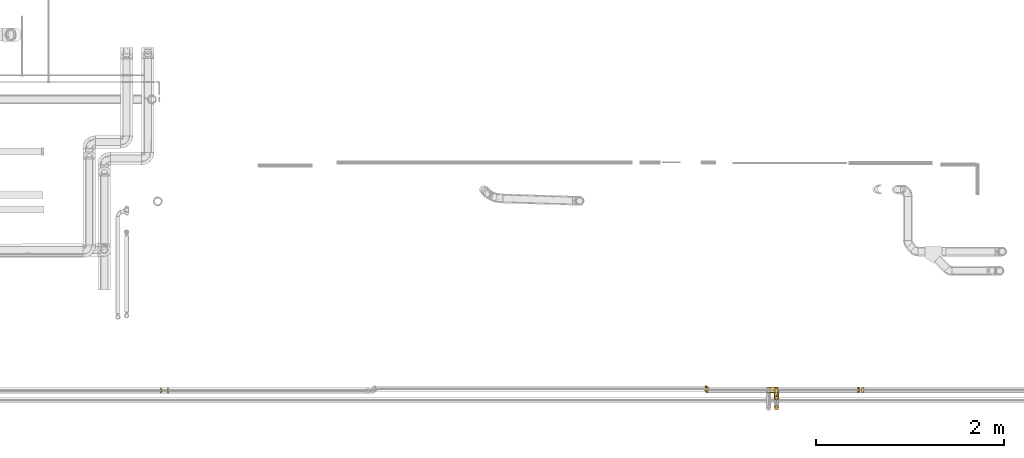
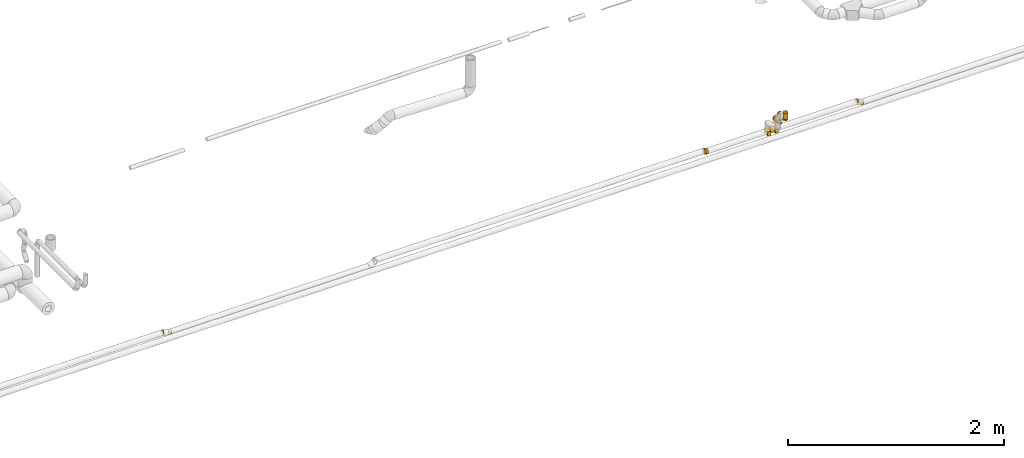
# One storey, part 11 of 156: 16 coverings.
"""IFC2X3 building model written with IfcOpenShell, lengths in millimetres."""

import ifcopenshell
import ifcopenshell.guid

model = None  # the IFC model being written
_history = None  # IfcOwnerHistory: only IFC2X3 demands one
_inside = {}  # id of a spatial element -> (the spatial element, [elements in it])
_under = {}  # id of a project, library or spatial element -> (it, [spatial elements below it])
_declared = {}  # id of a project -> (the project, [libraries it declares])
_typed = {}  # id of a type object -> (the type object, [elements of that type])
_made_of = {}  # id of a material, layer set ... -> (it, [elements and type objects made of it])


def new_model(schema):
    """Start an empty IFC model of exactly this schema.

    Asked for "IFC4X3", IfcOpenShell would pick the latest addendum, in which some entities
    have other attributes; the version numbers below select the first issue.
    IFC2X3 requires an IfcOwnerHistory on every rooted entity: one is made here for all.
    """
    global model, _history
    if schema == "IFC4X3":
        model = ifcopenshell.file(schema_version=(4, 3, 0, 0))
    else:
        model = ifcopenshell.file(schema=schema)
    _inside.clear()
    _under.clear()
    _declared.clear()
    _typed.clear()
    _made_of.clear()
    _history = None
    if model.schema == "IFC2X3":
        org = make("IfcOrganization", Name="unknown")
        user = make(
            "IfcPersonAndOrganization",
            ThePerson=make("IfcPerson", FamilyName="unknown"),
            TheOrganization=org,
        )
        app = make(
            "IfcApplication",
            ApplicationDeveloper=org,
            Version="unknown",
            ApplicationFullName="unknown",
            ApplicationIdentifier="unknown",
        )
        _history = make(
            "IfcOwnerHistory",
            OwningUser=user,
            OwningApplication=app,
            ChangeAction="ADDED",
            CreationDate=0,
        )
    return model


def make(cls, **values):
    """One entity of the class cls with the attributes given. An attribute that is None is left unset."""
    return model.create_entity(
        cls, **{name: value for name, value in values.items() if value is not None}
    )


def entity(cls, *values):
    """Any entity or typed value of the class cls, its attributes in the order of the schema. None: left unset."""
    e = model.create_entity(cls)
    for i, value in enumerate(values):
        if value is not None:
            e[i] = value
    return e


def rooted(cls, **values):
    """An entity with a GlobalId (a new one), such as an element, a storey or a relation."""
    return make(cls, GlobalId=ifcopenshell.guid.new(), OwnerHistory=_history, **values)


def si_unit(unit_type, name, prefix=None):
    """IfcSIUnit, for example si_unit("LENGTHUNIT", "METRE", prefix="MILLI")."""
    return make("IfcSIUnit", UnitType=unit_type, Prefix=prefix, Name=name)


def converted_unit(unit_type, name, factor, base, dimensions=None, offset=None):
    """IfcConversionBasedUnit, such as the inch: factor (a typed value) times the base unit."""
    return make(
        "IfcConversionBasedUnit"
        if offset is None
        else "IfcConversionBasedUnitWithOffset",
        ConversionOffset=offset,
        Dimensions=None
        if dimensions is None
        else entity("IfcDimensionalExponents", *dimensions),
        UnitType=unit_type,
        Name=name,
        ConversionFactor=make(
            "IfcMeasureWithUnit", ValueComponent=factor, UnitComponent=base
        ),
    )


def derived_unit(unit_type, elements):
    """IfcDerivedUnit: a product of units, each with its exponent."""
    return make(
        "IfcDerivedUnit",
        Elements=[
            make("IfcDerivedUnitElement", Unit=unit, Exponent=power)
            for unit, power in elements
        ],
        UnitType=unit_type,
    )


def assignment(units):
    """IfcUnitAssignment: the units of a project."""
    return None if units is None else make("IfcUnitAssignment", Units=units)


def point(xyz):
    """IfcCartesianPoint."""
    return None if xyz is None else make("IfcCartesianPoint", Coordinates=xyz)


def direction(xyz):
    """IfcDirection."""
    return None if xyz is None else make("IfcDirection", DirectionRatios=xyz)


def frame(location, z_axis=None, x_axis=None):
    """IfcAxis2Placement3D, a coordinate frame: its origin and axes. An axis left out is left unset."""
    return make(
        "IfcAxis2Placement3D",
        Location=point(location),
        Axis=direction(z_axis),
        RefDirection=direction(x_axis),
    )


def frame_2d(location, x_axis=None):
    """IfcAxis2Placement2D, a coordinate frame in the plane: its origin and x axis."""
    return make(
        "IfcAxis2Placement2D", Location=point(location), RefDirection=direction(x_axis)
    )


def origin_with_axes():
    """The frame at (0, 0, 0) with the z axis (0, 0, 1) and the x axis (1, 0, 0) written out."""
    return frame((0.0, 0.0, 0.0), z_axis=(0.0, 0.0, 1.0), x_axis=(1.0, 0.0, 0.0))


def origin_2d_with_axis():
    """The frame at (0, 0) in the plane with the x axis (1, 0) written out."""
    return frame_2d((0.0, 0.0), x_axis=(1.0, 0.0))


def place(relative_to, where):
    """IfcLocalPlacement: puts the frame where relative to a parent placement (None: the world)."""
    return make(
        "IfcLocalPlacement", PlacementRelTo=relative_to, RelativePlacement=where
    )


def context(
    kind, dimensions, precision=None, world=None, true_north=None, identifier=None
):
    """IfcGeometricRepresentationContext, for example the 3D "Model" context."""
    return make(
        "IfcGeometricRepresentationContext",
        ContextIdentifier=identifier,
        ContextType=kind,
        CoordinateSpaceDimension=dimensions,
        Precision=precision,
        WorldCoordinateSystem=world,
        TrueNorth=true_north,
    )


def subcontext(parent, identifier, kind, view, scale=None):
    """IfcGeometricRepresentationSubContext, for example "Body" below "Model"."""
    return make(
        "IfcGeometricRepresentationSubContext",
        ContextIdentifier=identifier,
        ContextType=kind,
        ParentContext=parent,
        TargetScale=scale,
        TargetView=view,
    )


def project(units=None, contexts=None):
    """IfcProject with its units and contexts."""
    return rooted(
        "IfcProject",
        Name="project",
        RepresentationContexts=contexts,
        UnitsInContext=assignment(units),
    )


def spatial(cls, under=None, at=None, **own):
    """A site, building, storey or space (cls), placed at a placement, below another one or the project."""
    s = rooted(cls, ObjectPlacement=at, **own)
    if under is not None:
        _under.setdefault(under.id(), (under, []))[1].append(s)
    return s


def profile(cls, at=None, kind="AREA", **sizes):
    """A parametric profile (cls). Its sizes go by their IFC names, for example OverallWidth=200.0."""
    return make(cls, ProfileType=kind, Position=at, **sizes)


def hollow_circle(**sizes):
    """IfcCircleHollowProfileDef."""
    return profile("IfcCircleHollowProfileDef", **sizes)


def extrude(swept, where, along, depth):
    """IfcExtrudedAreaSolid: the profile swept, set in the frame where, extruded along a direction by depth."""
    return make(
        "IfcExtrudedAreaSolid",
        SweptArea=swept,
        Position=where,
        ExtrudedDirection=direction(along),
        Depth=depth,
    )


def faces_of(points, faces, orient=None, outer=None):
    """IfcFace entities. A face is a list of loops; a loop is a list of indices into points, from 0.

    orient and outer hold one flag for each loop. By default every Orientation is true, the
    first loop of a face is its IfcFaceOuterBound and the others are IfcFaceBound.
    """
    made = []
    for i, loops in enumerate(faces):
        bounds = []
        for j, loop in enumerate(loops):
            is_outer = j == 0 if outer is None else outer[i][j]
            bounds.append(
                make(
                    "IfcFaceOuterBound" if is_outer else "IfcFaceBound",
                    Bound=make("IfcPolyLoop", Polygon=[points[k] for k in loop]),
                    Orientation=True if orient is None else orient[i][j],
                )
            )
        made.append(make("IfcFace", Bounds=bounds))
    return made


def open_shell(faces, orient=None, outer=None):
    """The faces of one IfcOpenShell. surface_model builds it on its shared points."""
    return ("IfcOpenShell", faces, orient, outer)


def surface_model(cls, points, shells):
    """IfcFaceBasedSurfaceModel or IfcShellBasedSurfaceModel (cls): surfaces that need not close."""
    shared = [point(p) for p in points]
    made = [make(c, CfsFaces=faces_of(shared, fs, o, b)) for c, fs, o, b in shells]
    if cls == "IfcFaceBasedSurfaceModel":
        return make(cls, FbsmFaces=made)
    return make(cls, SbsmBoundary=made)


def shape(context_of_items, identifier, shape_type, items):
    """IfcShapeRepresentation: the items that make up one representation, for example the "Body"."""
    return make(
        "IfcShapeRepresentation",
        ContextOfItems=context_of_items,
        RepresentationIdentifier=identifier,
        RepresentationType=shape_type,
        Items=items,
    )


def source(mapping_origin, context_of_items, identifier, shape_type, items):
    """IfcRepresentationMap: a shape defined once, which mapped items show again and again."""
    return make(
        "IfcRepresentationMap",
        MappingOrigin=mapping_origin,
        MappedRepresentation=shape(context_of_items, identifier, shape_type, items),
    )


def transform(
    local_origin,
    x_axis=None,
    y_axis=None,
    z_axis=None,
    scale=None,
    scale2=None,
    scale3=None,
    uniform=True,
):
    """IfcCartesianTransformationOperator3D, or its non-uniform kind. x_axis, y_axis, z_axis: its Axis1, 2, 3."""
    if uniform:
        return make(
            "IfcCartesianTransformationOperator3D",
            Axis1=direction(x_axis),
            Axis2=direction(y_axis),
            LocalOrigin=point(local_origin),
            Scale=scale,
            Axis3=direction(z_axis),
        )
    return make(
        "IfcCartesianTransformationOperator3DnonUniform",
        Axis1=direction(x_axis),
        Axis2=direction(y_axis),
        LocalOrigin=point(local_origin),
        Scale=scale,
        Axis3=direction(z_axis),
        Scale2=scale2,
        Scale3=scale3,
    )


def mapped(mapping_source, mapping_target):
    """IfcMappedItem: shows the shape of a source again, moved by a transform."""
    return make(
        "IfcMappedItem", MappingSource=mapping_source, MappingTarget=mapping_target
    )


def made_of(thing, what):
    """Note that an element or type object is made of a material, layer set ...; save() writes the relation."""
    if what is not None:
        _made_of.setdefault(what.id(), (what, []))[1].append(thing)
    return thing


def element(
    cls,
    number,
    at=None,
    inside=None,
    cuts=None,
    type_object=None,
    material=None,
    context=None,
    identifier="Body",
    shape_type=None,
    held_by="IfcProductDefinitionShape",
    body=None,
    shapes=None,
    **own,
):
    """One element of the class cls, such as IfcWall. Its Tag is "e" and its number.

    at: its placement. inside: the storey or other place that contains it. cuts: it is an
    opening in that element (IfcRelVoidsElement). A single representation is given by context,
    identifier, shape_type and body (its items); several are given by shapes. held_by: the class
    of the entity that holds the representations. save() writes the other relations.
    """
    e = rooted(cls, Tag="e%d" % number, ObjectPlacement=at, **own)
    if body is not None:
        shapes = [shape(context, identifier, shape_type, body)]
    if shapes is not None:
        e.Representation = make(held_by, Representations=shapes)
    if inside is not None:
        _inside.setdefault(inside.id(), (inside, []))[1].append(e)
    if cuts is not None:
        rooted(
            "IfcRelVoidsElement", RelatingBuildingElement=cuts, RelatedOpeningElement=e
        )
    if type_object is not None:
        _typed.setdefault(type_object.id(), (type_object, []))[1].append(e)
    return made_of(e, material)


def aggregate(whole, parts):
    """IfcRelAggregates: a whole, such as a stair, and the parts it consists of."""
    return rooted("IfcRelAggregates", RelatingObject=whole, RelatedObjects=parts)


def save(model, path):
    """Write the relations noted so far, then the file.

    IfcRelAggregates (storeys below a building ...), IfcRelContainedInSpatialStructure (elements
    in a storey), IfcRelDefinesByType, IfcRelAssociatesMaterial and IfcRelDeclares: one each for
    every whole, place, type object, material and project.
    """
    for whole, parts in _under.values():
        aggregate(whole, parts)
    for where, things in _inside.values():
        rooted(
            "IfcRelContainedInSpatialStructure",
            RelatedElements=things,
            RelatingStructure=where,
        )
    for kind, things in _typed.values():
        rooted("IfcRelDefinesByType", RelatedObjects=things, RelatingType=kind)
    for what, things in _made_of.values():
        rooted("IfcRelAssociatesMaterial", RelatedObjects=things, RelatingMaterial=what)
    for by, libraries in _declared.values():
        rooted("IfcRelDeclares", RelatingContext=by, RelatedDefinitions=libraries)
    model.write(path)


model = new_model("IFC2X3")

# Units and contexts
model_context = context("Model", 3, precision=0.01, world=frame((0.0, 4.29681676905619e-09, 0.0)), true_north=direction((4.01073788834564e-13, 1.0)))
plan_context = context("Plan", 3, precision=0.01, world=frame((0.0, 4.29681676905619e-09, 0.0)), true_north=direction((4.01073788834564e-13, 1.0)))
body_context = subcontext(model_context, "Body", "Model", "MODEL_VIEW")
ifc_project = project(units=[converted_unit("PLANEANGLEUNIT", "DEGREE", entity("IfcPositiveLengthMeasure", 0.0174532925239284), si_unit("PLANEANGLEUNIT", "RADIAN"), dimensions=[0, 0, 0, 0, 0, 0, 0]), si_unit("AREAUNIT", "SQUARE_METRE"), si_unit("LENGTHUNIT", "METRE", prefix="MILLI"), si_unit("MASSUNIT", "GRAM", prefix="KILO"), si_unit("POWERUNIT", "WATT"), si_unit("PRESSUREUNIT", "PASCAL", prefix="KILO"), si_unit("FORCEUNIT", "NEWTON", prefix="KILO"), si_unit("ELECTRICVOLTAGEUNIT", "VOLT"), si_unit("ELECTRICCURRENTUNIT", "AMPERE"), si_unit("THERMODYNAMICTEMPERATUREUNIT", "DEGREE_CELSIUS"), si_unit("TIMEUNIT", "SECOND"), si_unit("VOLUMEUNIT", "CUBIC_METRE"), derived_unit("LINEARVELOCITYUNIT", [(si_unit("LENGTHUNIT", "METRE"), 1), (si_unit("TIMEUNIT", "SECOND"), -1)]), derived_unit("VOLUMETRICFLOWRATEUNIT", [(si_unit("VOLUMEUNIT", "CUBIC_METRE"), 1), (si_unit("TIMEUNIT", "SECOND"), -1)]), derived_unit("THERMALTRANSMITTANCEUNIT", [(si_unit("POWERUNIT", "WATT"), 1), (si_unit("THERMODYNAMICTEMPERATUREUNIT", "KELVIN"), -1), (si_unit("AREAUNIT", "SQUARE_METRE"), -1)]), derived_unit("SOUNDPRESSUREUNIT", [(si_unit("PRESSUREUNIT", "PASCAL"), 1)])], contexts=[model_context, plan_context])

# Site, building, storey
site_placement = place(None, frame((0.0, -4.29681676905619e-09, 0.0), z_axis=(0.0, 0.0, 1.0), x_axis=(1.0, 0.0, 0.0)))
site = spatial("IfcSite", under=ifc_project, at=site_placement, CompositionType="ELEMENT")
building_placement = place(site_placement, frame((0.0, 4.29681676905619e-09, 0.0), z_axis=(0.0, 0.0, 1.0), x_axis=(1.0, 0.0, 0.0)))
building = spatial("IfcBuilding", under=site, at=building_placement, Name="mc-building", CompositionType="ELEMENT")
storey_placement = place(building_placement, frame((0.0, 0.0, 205200.0), z_axis=(0.0, 0.0, 1.0), x_axis=(1.0, 0.0, 0.0)))
storey = spatial("IfcBuildingStorey", under=building, at=storey_placement, Name="Nivå D + 1,2 m", CompositionType="ELEMENT", Elevation=205200.0)

# Coverings
shared_shape_1 = source(origin_with_axes(), body_context, "Body", "SurfaceModel", [
    surface_model("IfcShellBasedSurfaceModel", [(-1.23106, 9.71666, 28.38286), (-1.23106, 9.71666, -28.38286), (-1.23106, 4.92516, -29.59295), (-1.23106, 0.0, -30.0), (-1.23106, -7.76457, -28.97778), (-1.23106, 4.92516, 29.59295), (-1.23106, -7.76457, 28.97778), (-1.23106, 0.0, 30.0), (-1.23106, -15.0, -25.98076), (-1.23106, -21.2132, -21.2132), (-1.23106, -25.98076, -15.0), (-1.23106, -25.98076, 15.0), (-1.23106, -28.97778, -7.76457), (-1.23106, -21.2132, 21.2132), (-1.23106, -15.0, 25.98076), (-1.23106, -28.97778, 7.76457), (-1.23106, -30.0, 0.0), (-0.00023, 5.07668, -29.59295), (-1.16439, 9.73333, -28.38286), (-1.16234, 9.72512, 28.38286), (3.07749, -7.23417, -28.97778), (1.1943, 0.29857, -30.0), (3.07749, -7.23417, 28.97778), (-0.00023, 5.07668, 29.59295), (1.1943, 0.29857, 30.0), (4.83233, -14.25356, -25.98076), (7.49556, -24.90647, -15.0), (6.33926, -20.28125, -21.2132), (7.49556, -24.90647, 15.0), (8.22244, -27.814, -7.76457), (4.83233, -14.25356, 25.98076), (6.33926, -20.28125, 21.2132), (8.22244, -27.814, 7.76457), (8.47037, -28.8057, 0.0), (-0.00922, 0.07492, -30.0), (-1.16234, 9.72512, -28.38286), (3.65627, -29.7003, 0.0), (-0.00922, 0.07492, 30.0), (-0.68843, 7.67105, 28.91635), (-1.23106, 6.72926, 29.13732), (0.44954, 3.27762, 29.74622), (-1.23106, 3.07073, 29.74622)], [open_shell([[[0, 1, 2]], [[3, 4, 2]], [[0, 2, 4]], [[5, 0, 6]], [[6, 7, 5]], [[0, 4, 6]], [[4, 8, 6]], [[8, 9, 10]], [[8, 10, 11]], [[11, 10, 12]], [[6, 13, 14]], [[8, 11, 13]], [[15, 11, 12]], [[12, 16, 15]], [[13, 6, 8]], [[17, 18, 19]], [[17, 20, 21]], [[20, 17, 19]], [[22, 19, 23]], [[23, 24, 22]], [[22, 20, 19]], [[22, 25, 20]], [[26, 27, 25]], [[28, 26, 25]], [[29, 26, 28]], [[30, 31, 22]], [[31, 28, 25]], [[29, 28, 32]], [[32, 33, 29]], [[25, 22, 31]], [[3, 2, 34]], [[34, 2, 17]], [[17, 21, 34]], [[17, 2, 35]], [[4, 3, 34]], [[9, 8, 25]], [[4, 25, 8]], [[12, 10, 26]], [[10, 9, 26]], [[16, 12, 36]], [[20, 4, 34]], [[25, 27, 9]], [[20, 25, 4]], [[26, 9, 27]], [[12, 29, 36]], [[12, 26, 29]], [[29, 33, 36]], [[20, 34, 21]], [[11, 28, 13]], [[13, 30, 14]], [[28, 11, 15]], [[7, 6, 37]], [[6, 22, 37]], [[14, 30, 6]], [[15, 16, 36]], [[28, 31, 13]], [[15, 32, 28]], [[33, 32, 36]], [[6, 30, 22]], [[37, 22, 24]], [[13, 31, 30]], [[15, 36, 32]], [[38, 39, 5]], [[37, 40, 41]], [[23, 5, 40]], [[40, 5, 41]], [[37, 24, 40]], [[38, 0, 39]], [[41, 7, 37]], [[5, 23, 38]]])]),
])
for number, where, z_axis, x_axis in (
    (1, (330457.5, 459031.28638, 4218.32044000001), (0.0, 1.0, 0.0), (1.0, 0.0, 0.0)),
    (2, (330537.5, 459031.28638, 4198.32044000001), (0.0, 1.0, 0.0), (-1.0, 0.0, 0.0)),
):
    element("IfcCovering", number, at=place(storey_placement, frame(where, z_axis=z_axis, x_axis=x_axis)), inside=storey, Name="BI10T - Cellegummi 18-32 mm kalde rør", PredefinedType="INSULATION", context=body_context, shape_type="MappedRepresentation", body=[
        mapped(shared_shape_1, transform((0.0, 0.0, 0.0), scale=1.0)),
    ])
shared_shape_2 = source(origin_with_axes(), body_context, "Body", "SweptSolid", [
    extrude(hollow_circle(Radius=30.0, WallThickness=25.0, at=origin_2d_with_axis()), frame((0.0, 0.0, 0.0), z_axis=(1.0, 0.0, 0.0), x_axis=(0.0, 1.0, 0.0)), (0.0, 0.0, 1.0), 18.3),
])
covering_1_placement = place(storey_placement, frame((336274.83333, 459038.28638, 4228.32044000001), z_axis=(0.0, 0.0, 1.0), x_axis=(-0.8, 0.6, 0.0)))
element("IfcCovering", 3, at=covering_1_placement, inside=storey, Name="BI10T - Cellegummi 18-32 mm kalde rør", PredefinedType="INSULATION", context=body_context, shape_type="MappedRepresentation", body=[
    mapped(shared_shape_2, transform((0.0, 0.0, 0.0), scale=1.0)),
])
shared_shape_3 = source(origin_with_axes(), body_context, "Body", "SurfaceModel", [
    surface_model("IfcShellBasedSurfaceModel", [(-3.16333, 9.77333, 28.38286), (-0.28511, 5.9357, 29.59387), (2.66667, 2.0, 30.0), (6.67404, -3.34317, 29.24708), (-3.16333, 9.77333, -28.38286), (-0.29175, 5.94455, -29.59203), (2.66667, 2.0, -30.0), (6.66976, -3.33745, -29.24871), (10.47397, -8.40974, -27.03116), (13.88686, -12.96026, -23.45843), (18.88536, -19.62492, 13.01217), (10.47941, -8.417, 27.02679), (13.89223, -12.96742, 23.45129), (16.74172, -16.76674, 18.70033), (18.88274, -19.62143, -13.02124), (20.66667, -22.0, 0.0), (20.21589, -21.39897, 6.67182), (16.73744, -16.76104, -18.70927), (20.21491, -21.39766, -6.67896), (-3.33333, 9.71666, -28.38286), (-3.33333, 4.92516, -29.59295), (-3.33333, 0.0, -30.0), (-3.33333, -7.76457, -28.97778), (-3.33333, -7.76457, 28.97778), (-3.33333, 4.92516, 29.59295), (-3.33333, 9.71666, 28.38286), (-3.33333, 0.0, 30.0), (-3.33333, -15.0, -25.98076), (-3.33333, -21.2132, -21.2132), (-3.33333, -25.98076, -15.0), (-3.33333, -25.98076, 15.0), (-3.33333, -28.97778, -7.76457), (-3.33333, -21.2132, 21.2132), (-3.33333, -15.0, 25.98076), (-3.33333, -28.97778, 7.76457), (-3.33333, -30.0, 0.0), (-3.24373, 9.7312, 28.38286), (-3.24373, 9.7312, -28.38286), (0.82425, 4.45656, -29.74593), (-3.33333, 6.72926, -29.13732), (-0.17106, 0.51317, -30.0), (3.83572, -23.98999, -16.97178), (3.06373, -8.84826, -28.31794), (2.8145, -15.24095, -25.39047), (6.82498, -19.50966, -21.21725), (11.29944, -22.24956, -15.94139), (9.31578, -27.94733, 0.0), (8.97988, -26.28263, -9.91246), (8.11463, -13.29564, -25.40449), (3.06588, -8.8562, 28.31507), (2.233, -16.39115, 24.7378), (7.38543, -13.62337, 25.41401), (8.98174, -26.28503, 9.90425), (5.04173, -24.38522, 15.97887), (6.82761, -19.51731, 21.20916), (12.28157, -21.77504, 15.95656), (-0.17106, 0.51317, 30.0), (-1.37085, 7.38336, 29.13704), (-3.33333, 3.07073, 29.74622)], [open_shell([[[0, 1, 2]], [[2, 3, 0]], [[0, 3, 4]], [[5, 4, 6]], [[4, 7, 6]], [[7, 4, 8]], [[8, 4, 9]], [[4, 3, 10]], [[11, 12, 13]], [[14, 4, 10]], [[10, 11, 13]], [[15, 10, 16]], [[17, 9, 14]], [[14, 15, 18]], [[9, 4, 14]], [[10, 15, 14]], [[10, 3, 11]], [[19, 20, 21]], [[21, 22, 19]], [[19, 22, 23]], [[24, 25, 26]], [[26, 25, 19]], [[19, 23, 26]], [[22, 27, 23]], [[27, 28, 29]], [[27, 29, 30]], [[30, 29, 31]], [[23, 32, 33]], [[27, 30, 32]], [[34, 30, 31]], [[31, 35, 34]], [[32, 23, 27]], [[19, 25, 36]], [[37, 19, 36]], [[0, 4, 36]], [[37, 36, 4]], [[5, 37, 4]], [[38, 20, 5]], [[5, 39, 37]], [[40, 21, 20]], [[20, 38, 40]], [[38, 6, 40]], [[19, 37, 39]], [[20, 39, 5]], [[28, 41, 29]], [[27, 42, 43]], [[40, 42, 22]], [[44, 45, 41]], [[42, 27, 22]], [[28, 27, 43]], [[35, 31, 46]], [[17, 45, 44]], [[47, 46, 31]], [[44, 41, 28]], [[29, 47, 31]], [[48, 42, 8]], [[22, 21, 40]], [[42, 48, 43]], [[48, 8, 9]], [[42, 7, 8]], [[28, 43, 44]], [[6, 7, 40]], [[44, 48, 9]], [[41, 47, 29]], [[44, 43, 48]], [[17, 44, 9]], [[15, 46, 18]], [[46, 47, 18]], [[47, 41, 45]], [[14, 18, 47]], [[17, 14, 45]], [[14, 47, 45]], [[7, 42, 40]], [[49, 50, 51]], [[34, 35, 46]], [[52, 53, 30]], [[52, 30, 34]], [[32, 53, 54]], [[12, 11, 51]], [[50, 32, 54]], [[54, 55, 13]], [[50, 54, 51]], [[56, 49, 3]], [[50, 49, 33]], [[23, 56, 26]], [[52, 46, 16]], [[54, 53, 55]], [[55, 10, 13]], [[12, 51, 54]], [[16, 10, 52]], [[12, 54, 13]], [[33, 49, 23]], [[11, 3, 49]], [[11, 49, 51]], [[3, 2, 56]], [[32, 30, 53]], [[55, 52, 10]], [[23, 49, 56]], [[46, 52, 34]], [[32, 50, 33]], [[16, 46, 15]], [[52, 55, 53]], [[1, 56, 2]], [[57, 24, 1]], [[1, 58, 56]], [[36, 25, 24]], [[24, 57, 36]], [[57, 0, 36]], [[26, 56, 58]], [[24, 58, 1]]])]),
])
for number, where, z_axis, x_axis in (
    (4, (336277.5, 459036.28638, 4228.32044000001), (0.0, 0.0, 1.0), (0.8, -0.6, 0.0)),
    (5, (336257.5, 459051.28638, 4228.32044000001), (0.0, 0.0, 1.0), (-0.8, 0.6, 0.0)),
):
    element("IfcCovering", number, at=place(storey_placement, frame(where, z_axis=z_axis, x_axis=x_axis)), inside=storey, Name="BI10T - Cellegummi 18-32 mm kalde rør", PredefinedType="INSULATION", context=body_context, shape_type="MappedRepresentation", body=[
        mapped(shared_shape_3, transform((0.0, 0.0, 0.0), scale=1.0)),
    ])
shared_shape_4 = source(origin_with_axes(), body_context, "Body", "SurfaceModel", [
    surface_model("IfcShellBasedSurfaceModel", [(-2.16609, 9.71666, -28.38286), (-2.16609, 4.92516, -29.59295), (-2.16609, 0.0, -30.0), (-2.16609, -7.76457, -28.97778), (-2.16609, 9.71666, 28.38286), (-2.16609, 4.92516, 29.59295), (-2.16609, 0.0, 30.0), (-2.16609, -7.76457, 28.97778), (-2.16609, -15.0, -25.98076), (-2.16609, -21.2132, -21.2132), (-2.16609, -25.98076, -15.0), (-2.16609, -25.98076, 15.0), (-2.16609, -28.97778, -7.76457), (-2.16609, -21.2132, 21.2132), (-2.16609, -15.0, 25.98076), (-2.16609, -28.97778, 7.76457), (-2.16609, -30.0, 0.0), (-0.06611, 5.38003, -29.59295), (-2.05936, 9.76518, -28.38286), (-2.04885, 9.74206, 28.38286), (1.97194, 0.89634, -30.0), (5.18494, -6.17227, -28.97778), (1.97194, 0.89634, 30.0), (-0.06611, 5.38003, 29.59295), (5.18494, -6.17227, 28.97778), (8.17898, -12.75916, -25.98076), (12.72285, -22.75568, -15.0), (10.75002, -18.41545, -21.2132), (12.72285, -22.75568, 15.0), (13.96303, -25.48406, -7.76457), (8.17898, -12.75916, 25.98076), (10.75002, -18.41545, 21.2132), (13.96303, -25.48406, 7.76457), (14.38603, -26.41466, 0.0), (-0.04909, 0.22665, -30.0), (-2.10054, 7.61845, -28.91635), (-2.04885, 9.74206, -28.38286), (-0.81265, 7.02243, -29.13732), (-0.43938, 6.20123, -29.36514), (0.78086, -5.57639, -29.42356), (3.81714, -17.62226, -23.8006), (2.38132, -10.99364, -27.71639), (4.98949, -23.0345, -18.26284), (7.19137, -28.29693, -5.85271), (5.81846, -26.86153, -11.4805), (6.3019, -29.09339, 0.0), (2.38132, -10.99364, 27.71639), (3.81714, -17.62226, 23.8006), (5.16258, -28.73639, 5.85271), (4.98949, -23.0345, 18.26284), (5.81846, -26.86153, 11.4805), (1.59666, -5.39968, 29.42356), (-0.04909, 0.22665, 30.0), (-1.24028, 7.80479, 28.91635), (-2.16609, 6.72926, 29.13732), (0.70126, 3.69182, 29.74622), (-2.16609, 3.07073, 29.74622)], [open_shell([[[0, 1, 2]], [[2, 3, 0]], [[0, 3, 4]], [[5, 4, 6]], [[7, 6, 4]], [[4, 3, 7]], [[3, 8, 7]], [[8, 9, 10]], [[8, 10, 11]], [[11, 10, 12]], [[7, 13, 14]], [[8, 11, 13]], [[15, 11, 12]], [[12, 16, 15]], [[13, 7, 8]], [[17, 18, 19]], [[19, 20, 17]], [[20, 19, 21]], [[22, 19, 23]], [[19, 22, 24]], [[24, 21, 19]], [[24, 25, 21]], [[26, 27, 25]], [[28, 26, 25]], [[29, 26, 28]], [[30, 31, 24]], [[31, 28, 25]], [[29, 28, 32]], [[32, 33, 29]], [[25, 24, 31]], [[2, 1, 34]], [[34, 1, 17]], [[35, 36, 37]], [[17, 20, 34]], [[35, 37, 38]], [[17, 1, 35]], [[38, 17, 35]], [[2, 39, 3]], [[8, 40, 9]], [[41, 40, 8]], [[9, 42, 10]], [[8, 3, 41]], [[39, 41, 3]], [[12, 43, 16]], [[26, 29, 44]], [[43, 12, 44]], [[44, 10, 42]], [[42, 9, 40]], [[39, 34, 20]], [[2, 34, 39]], [[42, 40, 27]], [[25, 40, 41]], [[33, 43, 29]], [[21, 39, 20]], [[43, 45, 16]], [[21, 25, 41]], [[10, 44, 12]], [[27, 40, 25]], [[43, 33, 45]], [[43, 44, 29]], [[44, 42, 26]], [[27, 26, 42]], [[21, 41, 39]], [[46, 47, 30]], [[16, 45, 48]], [[13, 11, 49]], [[50, 11, 15]], [[22, 51, 24]], [[32, 28, 50]], [[47, 46, 14]], [[51, 52, 6]], [[14, 13, 47]], [[31, 49, 28]], [[51, 46, 24]], [[7, 51, 6]], [[48, 32, 50]], [[50, 49, 11]], [[47, 49, 31]], [[47, 13, 49]], [[49, 50, 28]], [[47, 31, 30]], [[48, 50, 15]], [[51, 7, 46]], [[14, 46, 7]], [[22, 52, 51]], [[48, 45, 33]], [[30, 24, 46]], [[16, 48, 15]], [[48, 33, 32]], [[53, 54, 5]], [[52, 55, 56]], [[55, 23, 56]], [[56, 23, 5]], [[52, 22, 55]], [[53, 4, 54]], [[56, 6, 52]], [[5, 23, 53]]])]),
])
for number, where, z_axis, x_axis in (
    (6, (337932.5, 459036.28638, 4203.32044000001), (0.0, 1.0, 0.0), (-1.0, 0.0, 0.0)),
    (7, (337877.5, 459036.28638, 4228.32044000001), (0.0, 1.0, 0.0), (1.0, 0.0, 0.0)),
):
    element("IfcCovering", number, at=place(storey_placement, frame(where, z_axis=z_axis, x_axis=x_axis)), inside=storey, Name="BI10T - Cellegummi 18-32 mm kalde rør", PredefinedType="INSULATION", context=body_context, shape_type="MappedRepresentation", body=[
        mapped(shared_shape_4, transform((0.0, 0.0, 0.0), scale=1.0)),
    ])
shared_shape_5 = source(origin_with_axes(), body_context, "Body", "SurfaceModel", [
    surface_model("IfcShellBasedSurfaceModel", [(-17.2, -12.9, 33.6), (-17.2, -12.9, -33.6), (17.2, -12.9, 33.6), (17.2, -12.9, -33.6), (17.2, 33.6, 33.6), (17.2, 33.6, -33.6), (-17.2, 33.6, 33.6), (-17.2, 33.6, -33.6)], [open_shell([[[0, 1, 2]], [[3, 2, 1]], [[4, 5, 6]], [[7, 6, 5]], [[3, 1, 7]], [[7, 5, 3]], [[2, 3, 5]], [[5, 4, 2]], [[0, 2, 4]], [[4, 6, 0]], [[1, 0, 6]], [[6, 7, 1]]])]),
])
for number, where, z_axis, x_axis in (
    (8, (336925.62218, 459036.28638, 4228.32044000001), (0.0, -1.0, 0.0), (-1.0, 0.0, 0.0)),
    (9, (337009.60356, 459036.28638, 4228.32044000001), (0.0, -1.0, 0.0), (-1.0, 0.0, 0.0)),
):
    element("IfcCovering", number, at=place(storey_placement, frame(where, z_axis=z_axis, x_axis=x_axis)), inside=storey, Name="BI10T - Cellegummi 18-32 mm kalde rør", PredefinedType="INSULATION", context=body_context, shape_type="MappedRepresentation", body=[
        mapped(shared_shape_5, transform((0.0, 0.0, 0.0), scale=1.0)),
    ])
shared_shape_6 = source(origin_with_axes(), body_context, "Body", "SweptSolid", [
    extrude(hollow_circle(Radius=30.0, WallThickness=25.0, at=origin_2d_with_axis()), frame((0.0, 0.0, 0.0), z_axis=(1.0, 0.0, 0.0), x_axis=(0.0, 1.0, 0.0)), (0.0, 0.0, 1.0), 49.6),
])
covering_2_placement = place(storey_placement, frame((336942.82218, 459036.28638, 4228.32044000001), z_axis=(0.0, 0.0, 1.0), x_axis=(1.0, 0.0, 0.0)))
element("IfcCovering", 10, at=covering_2_placement, inside=storey, Name="BI10T - Cellegummi 18-32 mm kalde rør", PredefinedType="INSULATION", context=body_context, shape_type="MappedRepresentation", body=[
    mapped(shared_shape_6, transform((0.0, 0.0, 0.0), scale=1.0)),
])
shared_shape_7 = source(origin_with_axes(), body_context, "Body", "SweptSolid", [
    extrude(hollow_circle(Radius=25.0, WallThickness=20.0, at=origin_2d_with_axis()), frame((0.0, 0.0, 0.0), z_axis=(1.0, 0.0, 0.0), x_axis=(0.0, 1.0, 0.0)), (0.0, 0.0, 1.0), 65.0),
])
covering_3_placement = place(storey_placement, frame((337009.60356, 459026.28638, 4351.22044), z_axis=(0.0, 0.0, 1.0), x_axis=(0.0, -1.0, 0.0)))
element("IfcCovering", 11, at=covering_3_placement, inside=storey, Name="BI10T - Cellegummi 18-32 mm kalde rør", PredefinedType="INSULATION", context=body_context, shape_type="MappedRepresentation", body=[
    mapped(shared_shape_7, transform((0.0, 0.0, 0.0), scale=1.0)),
])
shared_shape_8 = source(origin_with_axes(), body_context, "Body", "SurfaceModel", [
    surface_model("IfcShellBasedSurfaceModel", [(15.59106, 10.0, 19.54275), (19.54869, 10.0, 15.5836), (22.52596, 10.0, 10.84348), (24.37392, 10.0, 5.55985), (-9.77037, 10.0, -23.01173), (0.0, 10.0, 25.0), (-4.97942, 10.0, 24.49909), (-9.77037, 10.0, 23.01173), (10.85104, 10.0, 22.52232), (5.5658, 10.0, 24.37256), (22.52232, 10.0, -10.85104), (25.0, 10.0, 0.0), (24.37256, 10.0, -5.5658), (19.54275, 10.0, -15.59106), (15.5836, 10.0, -19.54869), (5.55985, 10.0, -24.37392), (10.84348, 10.0, -22.52596), (0.0, 10.0, -25.0), (-4.9912, 10.0, -24.49669), (-10.0, 9.77037, -23.01173), (-10.0, 4.98531, -24.49789), (-10.0, -6.47048, -24.14815), (-10.0, 0.0, -25.0), (-10.0, 4.98531, 24.49789), (-10.0, 9.77037, 23.01173), (-10.0, -6.47048, 24.14815), (-10.0, 0.0, 25.0), (-10.0, -21.65064, -12.5), (-10.0, -12.5, -21.65064), (-10.0, -17.67767, -17.67767), (-10.0, -24.14815, -6.47048), (-10.0, -24.14815, 6.47048), (-10.0, -12.5, 21.65064), (-10.0, -17.67767, 17.67767), (-10.0, -21.65064, 12.5), (-10.0, -25.0, 0.0), (-9.83763, 9.83763, 23.01173), (-9.83763, 9.83763, -23.01173), (-1.77155, 10.0, -24.82136), (-2.92893, 2.92893, -25.0), (-10.0, 8.06996, -23.53985), (-1.3896, -21.95734, -9.56709), (-7.86085, 0.88606, -25.0), (-5.68917, -9.08632, -23.09699), (-5.36315, -4.22283, -24.50311), (-4.6967, 2.1967, -25.0), (-2.71409, -3.25736, -24.46852), (-6.46447, 1.46447, -25.0), (22.53316, 1.61684, -8.26039), (3.21095, -21.89405, -4.866), (7.5, -20.31089, 0.0), (-1.25, -22.65544, 0.0), (3.17946, -12.06338, -19.45532), (5.27461, -6.12177, -21.81624), (9.72857, -9.40748, -17.68104), (-3.4391, -14.35065, -19.83383), (4.06826, -0.2638, -23.87523), (-1.77213, 5.72171, -25.0), (3.88661, 3.60856, -24.43458), (-4.75202, -19.36863, -15.21904), (1.53075, -17.51544, -15.21903), (7.67625, 5.44566, -23.59828), (-0.88606, 7.86085, -25.0), (14.42882, -3.00424, -17.68085), (16.79904, 3.09507, -17.68104), (18.54659, -2.50557, -13.30472), (11.33935, 0.65183, -21.17041), (12.87257, 5.57259, -21.17041), (14.54589, -14.15965, -5.25667), (20.31089, -7.5, 0.0), (13.90544, -13.90544, 0.0), (22.87217, 2.05883, 0.0), (18.97848, -7.61639, -7.29177), (20.59771, 4.07738, -13.30472), (8.96866, -14.17466, -13.97642), (4.57514, -19.87727, -9.20711), (-3.48166, -23.93063, -4.71646), (14.48306, -9.91542, -12.65541), (9.8348, -4.24021, -20.42406), (0.09492, -2.30069, -24.29074), (9.05606, -18.86568, -4.51754), (-0.96493, -7.35622, -23.09699), (10.05347, -16.67379, -8.87636), (-1.39233, -21.95808, 9.56709), (-3.48164, -23.93063, 4.71647), (4.57401, -19.87688, 9.20924), (1.52377, -17.51836, 15.21903), (-4.75615, -19.36937, 15.21904), (9.84063, -4.2486, 20.41727), (4.0701, -0.26515, 23.87452), (5.2782, -6.12535, 21.8134), (12.87961, 5.56905, 21.16564), (16.80509, 3.09152, 17.6743), (0.09492, -2.30069, 24.29074), (-3.0591, -2.52707, 24.62367), (-0.96493, -7.35622, 23.09699), (14.4342, -3.00766, 17.67449), (11.3446, 0.6449, 21.16564), (-3.44118, -14.35121, 19.83383), (-1.77213, 5.72171, 25.0), (-2.92893, 2.92893, 25.0), (18.54877, -2.5125, 13.29713), (20.6018, 4.0734, 13.29713), (-5.68917, -9.08632, 23.09699), (-0.88606, 7.86085, 25.0), (7.68244, 5.44227, 23.59589), (3.17676, -12.06822, 19.45308), (18.98406, -7.61079, 7.28566), (-7.86085, 0.88606, 25.0), (22.53511, 1.61482, 8.25354), (14.48215, -9.92521, 12.64607), (-5.36315, -4.22283, 24.50311), (7.13366, 1.81046, 23.32756), (3.39597, 4.69308, 24.60817), (3.21089, -21.89392, 4.86669), (10.05368, -16.67251, 8.87873), (9.0575, -18.86452, 4.51846), (14.54887, -14.15599, 5.25871), (8.97545, -14.17456, 13.97032), (9.72597, -9.41973, 17.6743), (-4.6967, 2.1967, 25.0), (-6.46447, 1.46447, 25.0), (-8.0699, 10.0, 23.53965), (-10.0, 1.77158, 24.82157)], [open_shell([[[0, 1, 2]], [[2, 3, 0]], [[4, 5, 0]], [[6, 5, 7]], [[0, 5, 8]], [[7, 5, 4]], [[8, 5, 9]], [[0, 3, 10]], [[11, 12, 10]], [[10, 13, 14]], [[10, 4, 0]], [[4, 10, 14]], [[15, 14, 16]], [[14, 15, 4]], [[17, 18, 4]], [[17, 4, 15]], [[10, 3, 11]], [[19, 20, 21]], [[22, 21, 20]], [[19, 21, 23]], [[24, 19, 23]], [[25, 26, 23]], [[21, 25, 23]], [[21, 27, 25]], [[28, 29, 27]], [[30, 25, 27]], [[30, 31, 25]], [[32, 25, 33]], [[33, 31, 34]], [[31, 33, 25]], [[30, 35, 31]], [[27, 21, 28]], [[19, 24, 36]], [[37, 19, 36]], [[7, 4, 36]], [[37, 36, 4]], [[38, 17, 39]], [[18, 37, 4]], [[18, 40, 37]], [[20, 39, 22]], [[18, 38, 20]], [[20, 38, 39]], [[19, 37, 40]], [[20, 40, 18]], [[27, 41, 30]], [[21, 22, 42]], [[43, 28, 21]], [[21, 44, 43]], [[45, 46, 47]], [[10, 12, 48]], [[49, 50, 51]], [[52, 53, 54]], [[28, 55, 29]], [[56, 57, 58]], [[29, 59, 27]], [[27, 59, 41]], [[55, 60, 59]], [[16, 61, 15]], [[62, 15, 61]], [[63, 64, 65]], [[64, 14, 13]], [[66, 67, 64]], [[68, 69, 70]], [[16, 67, 61]], [[56, 39, 57]], [[12, 11, 71]], [[66, 64, 63]], [[65, 48, 72]], [[13, 10, 73]], [[60, 55, 52]], [[71, 72, 48]], [[73, 64, 13]], [[48, 73, 10]], [[65, 73, 48]], [[62, 17, 15]], [[67, 16, 14]], [[12, 71, 48]], [[58, 66, 56]], [[72, 71, 69]], [[43, 55, 28]], [[52, 54, 74]], [[60, 74, 75]], [[41, 49, 76]], [[54, 77, 74]], [[77, 65, 72]], [[66, 63, 78]], [[39, 56, 79]], [[70, 80, 68]], [[77, 54, 63]], [[49, 80, 50]], [[30, 76, 35]], [[64, 73, 65]], [[64, 67, 14]], [[61, 67, 66]], [[42, 44, 21]], [[55, 43, 81]], [[55, 81, 52]], [[79, 53, 81]], [[81, 53, 52]], [[78, 56, 66]], [[68, 77, 72]], [[80, 70, 50]], [[74, 77, 82]], [[42, 47, 44]], [[39, 79, 45]], [[81, 43, 44]], [[46, 81, 44]], [[79, 81, 46]], [[53, 79, 56]], [[76, 49, 51]], [[75, 49, 41]], [[35, 76, 51]], [[41, 76, 30]], [[77, 63, 65]], [[78, 54, 53]], [[54, 78, 63]], [[56, 78, 53]], [[75, 74, 82]], [[52, 74, 60]], [[55, 59, 29]], [[41, 59, 60]], [[60, 75, 41]], [[80, 75, 82]], [[75, 80, 49]], [[80, 82, 68]], [[77, 68, 82]], [[69, 68, 72]], [[58, 62, 61]], [[62, 58, 57]], [[66, 58, 61]], [[47, 46, 44]], [[45, 79, 46]], [[34, 31, 83]], [[35, 51, 84]], [[83, 85, 86]], [[83, 86, 87]], [[88, 89, 90]], [[91, 92, 0]], [[93, 94, 95]], [[96, 92, 97]], [[33, 98, 32]], [[89, 99, 100]], [[92, 101, 102]], [[103, 25, 32]], [[9, 104, 105]], [[86, 106, 98]], [[69, 71, 107]], [[25, 108, 26]], [[92, 1, 0]], [[109, 107, 71]], [[110, 107, 101]], [[109, 3, 2]], [[71, 11, 3]], [[33, 87, 98]], [[8, 91, 0]], [[108, 25, 111]], [[96, 101, 92]], [[33, 34, 87]], [[105, 8, 9]], [[97, 105, 112]], [[102, 109, 2]], [[91, 105, 97]], [[113, 89, 112]], [[2, 1, 102]], [[109, 101, 107]], [[113, 112, 105]], [[71, 3, 109]], [[51, 50, 114]], [[114, 85, 83]], [[115, 116, 117]], [[118, 115, 110]], [[86, 118, 106]], [[103, 98, 95]], [[90, 93, 95]], [[95, 106, 90]], [[101, 96, 110]], [[70, 117, 116]], [[51, 114, 84]], [[92, 102, 1]], [[109, 102, 101]], [[105, 91, 8]], [[92, 91, 97]], [[98, 103, 32]], [[111, 25, 103]], [[90, 106, 119]], [[107, 117, 69]], [[95, 98, 106]], [[119, 96, 88]], [[120, 93, 100]], [[118, 110, 119]], [[117, 110, 115]], [[108, 111, 121]], [[103, 95, 111]], [[120, 94, 93]], [[90, 89, 93]], [[111, 94, 121]], [[89, 100, 93]], [[116, 114, 50]], [[84, 83, 31]], [[83, 84, 114]], [[35, 84, 31]], [[88, 96, 97]], [[110, 96, 119]], [[88, 97, 112]], [[119, 88, 90]], [[106, 118, 119]], [[85, 118, 86]], [[83, 87, 34]], [[98, 87, 86]], [[70, 116, 50]], [[85, 116, 115]], [[69, 117, 70]], [[110, 117, 107]], [[116, 85, 114]], [[85, 115, 118]], [[104, 9, 5]], [[99, 113, 104]], [[88, 112, 89]], [[104, 113, 105]], [[89, 113, 99]], [[121, 94, 120]], [[95, 94, 111]], [[122, 7, 36]], [[6, 100, 5]], [[6, 123, 100]], [[23, 36, 24]], [[23, 123, 6]], [[23, 122, 36]], [[26, 100, 123]], [[6, 122, 23]]])]),
])
for number, where, z_axis, x_axis in (
    (12, (337009.60356, 459036.28638, 4351.22044), (1.0, 0.0, 0.0), (0.0, 0.0, 1.0)),
    (13, (337009.60356, 458951.28638, 4351.22044), (-1.0, 0.0, 0.0), (0.0, -1.0, 0.0)),
    (14, (337009.60356, 458951.28638, 4451.22044), (1.0, 0.0, 0.0), (0.0, 0.0, 1.0)),
    (15, (337009.60356, 458846.28638, 4451.22044), (-1.0, 0.0, 0.0), (0.0, -1.0, 0.0)),
):
    element("IfcCovering", number, at=place(storey_placement, frame(where, z_axis=z_axis, x_axis=x_axis)), inside=storey, Name="BI10T - Cellegummi 18-32 mm kalde rør", PredefinedType="INSULATION", context=body_context, shape_type="MappedRepresentation", body=[
        mapped(shared_shape_8, transform((0.0, 0.0, 0.0), scale=1.0)),
    ])
shared_shape_9 = source(origin_with_axes(), body_context, "Body", "SweptSolid", [
    extrude(hollow_circle(Radius=25.0, WallThickness=20.0, at=origin_2d_with_axis()), frame((0.0, 0.0, 0.0), z_axis=(1.0, 0.0, 0.0), x_axis=(0.0, 1.0, 0.0)), (0.0, 0.0, 1.0), 70.0),
])
covering_4_placement = place(storey_placement, frame((337009.60356, 458846.28638, 4461.22044), z_axis=(-1.0, 0.0, 0.0), x_axis=(0.0, 0.0, 1.0)))
element("IfcCovering", 16, at=covering_4_placement, inside=storey, Name="BI10T - Cellegummi 18-32 mm kalde rør", PredefinedType="INSULATION", context=body_context, shape_type="MappedRepresentation", body=[
    mapped(shared_shape_9, transform((0.0, 0.0, 0.0), scale=1.0)),
])

save(model, "model.ifc")
